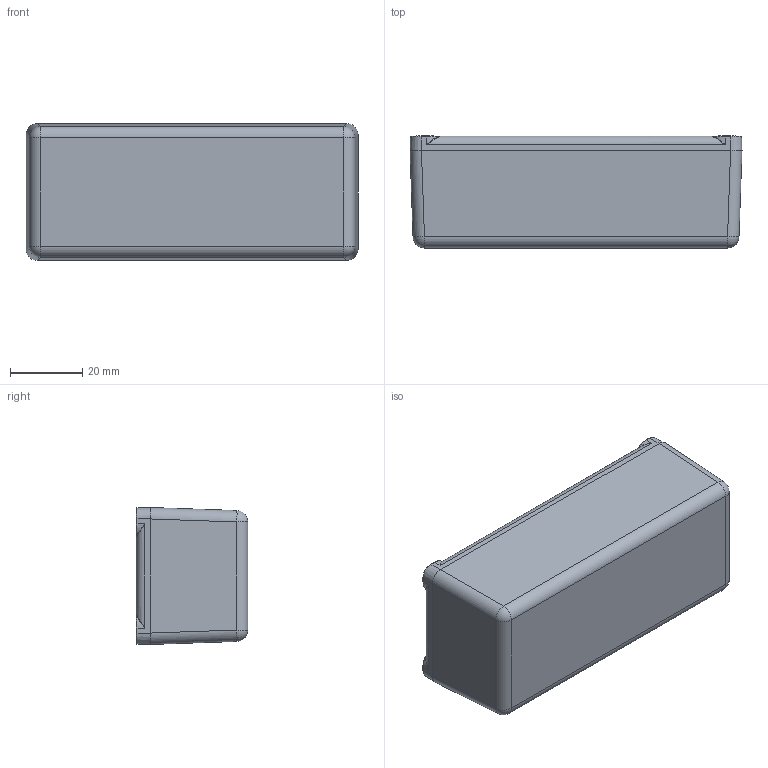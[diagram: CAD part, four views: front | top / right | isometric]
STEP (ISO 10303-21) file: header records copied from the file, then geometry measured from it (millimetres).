
FILE_DESCRIPTION (( 'STEP AP203' ), '1' );
FILE_NAME ('AL-23P-01.step', '2017-12-21T14:17:38', ( '' ), ( '' ), 'SwSTEP 2.0', 'SolidWorks 2016', '' );
FILE_SCHEMA (( 'CONFIG_CONTROL_DESIGN' ));
Length unit declared in the file: inch
Products named in the file (4): flat head screw_ai_SCREWS-045; AL-xxC_AL-23C-01; AL-xxB_AL-23BP-01; AL-23P-01
Assembly tree (6 placements, depth 2):
  AL-23P-01
    AL-xxB_AL-23BP-01
    AL-xxC_AL-23C-01
    flat head screw_ai_SCREWS-045  x4
Bounding box: 92.1 x 31.01 x 38 mm (x, y, z)
Volume: 26821.8 mm3; surface area: 29519.3 mm2
Topology: 6 solids, 6 shells, 311 faces, 748 edges, 432 vertices
Faces by surface type: plane 115, cylinder 104, cone 44, bspline 32, torus 12, sphere 4
Entity records: 8384 total; most frequent: CARTESIAN_POINT 2459, ORIENTED_EDGE 1188, DIRECTION 1088, EDGE_CURVE 594, AXIS2_PLACEMENT_3D 389, VERTEX_POINT 360, VECTOR 310, LINE 310
